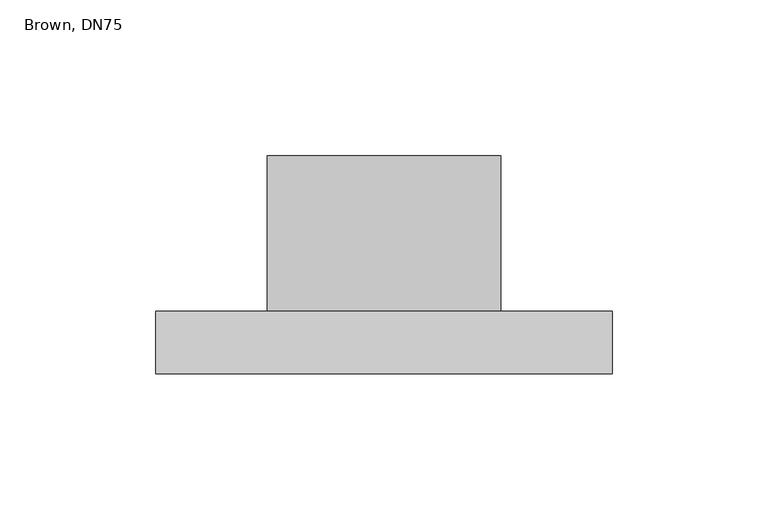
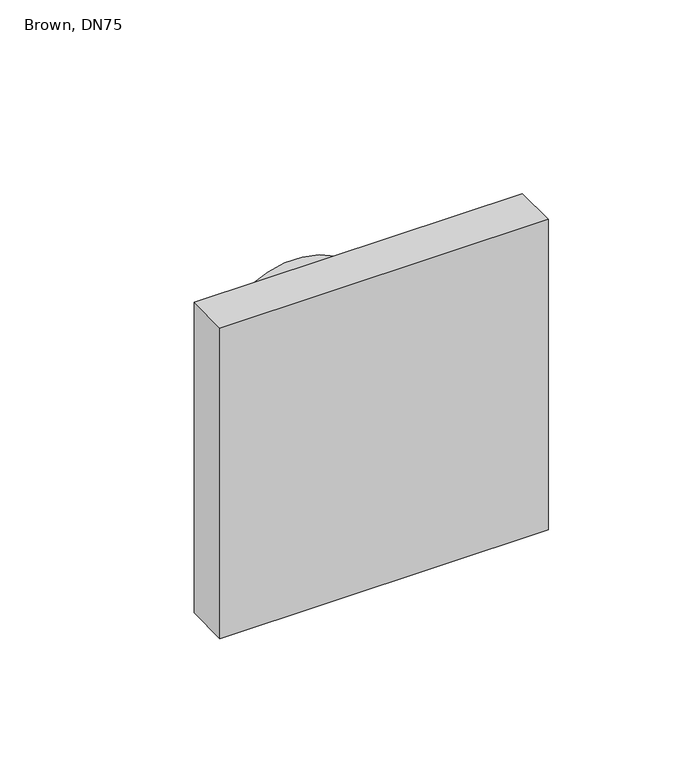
"""IFC4 building model written with IfcOpenShell, lengths in millimetres: valve geometry, MASTER 3 PLUS Aeration valve : Brown, DN75."""

from ifc_helpers import new_model, si_unit, point, frame, origin, origin_2d, place, context, project, spatial, polyline, circle_curve, trimmed, segment, composite_curve, outline, extrude, source, transform, mapped, element, save


def brown_dn75_215b001e(model_context):
    return source(origin(), model_context, "Body", "SweptSolid", [
        extrude(outline(polyline([(73.3, -20.0), (-73.3, -20.0), (-73.3, 0.0), (73.3, 0.0), (73.3, -20.0)])), frame((0.0, 0.0, -73.3), z_axis=(0.0, 0.0, 1.0), x_axis=(1.0, 0.0, 0.0)), (0.0, 0.0, 1.0), 146.6),
        extrude(outline(composite_curve([segment(trimmed(circle_curve(origin_2d(), 37.5), [point((0.0, -37.5))], [point((0.0, 37.5))], False, "CARTESIAN"), True, "CONTINUOUS"), segment(trimmed(circle_curve(origin_2d(), 37.5), [point((0.0, 37.5))], [point((0.0, -37.5))], False, "CARTESIAN"), True, "CONTINUOUS")], self_intersect=False)), frame((0.0, 0.0, 0.0), z_axis=(0.0, 1.0, 0.0), x_axis=(0.0, 0.0, 1.0)), (0.0, 0.0, 1.0), 50.0),
    ])


if __name__ == "__main__":
    model = new_model("IFC4")
    model_context = context("Model", 3, world=origin())
    ifc_project = project(units=[si_unit("LENGTHUNIT", "METRE", prefix="MILLI")], contexts=[model_context])
    site = spatial("IfcSite", under=ifc_project)
    building = spatial("IfcBuilding", under=site)
    placement = place(None, origin())
    brown_dn75_shape = brown_dn75_215b001e(model_context)
    element("IfcValve", 1, ObjectType="MASTER 3 PLUS Aeration valve : Brown, DN75", at=placement, inside=building, context=model_context, shape_type="MappedRepresentation", body=[
        mapped(brown_dn75_shape, transform((0.0, 0.0, 0.0), x_axis=(1.0, 0.0, 0.0), y_axis=(0.0, 1.0, 0.0), z_axis=(0.0, 0.0, 1.0))),
    ])
    save(model, "model.ifc")
